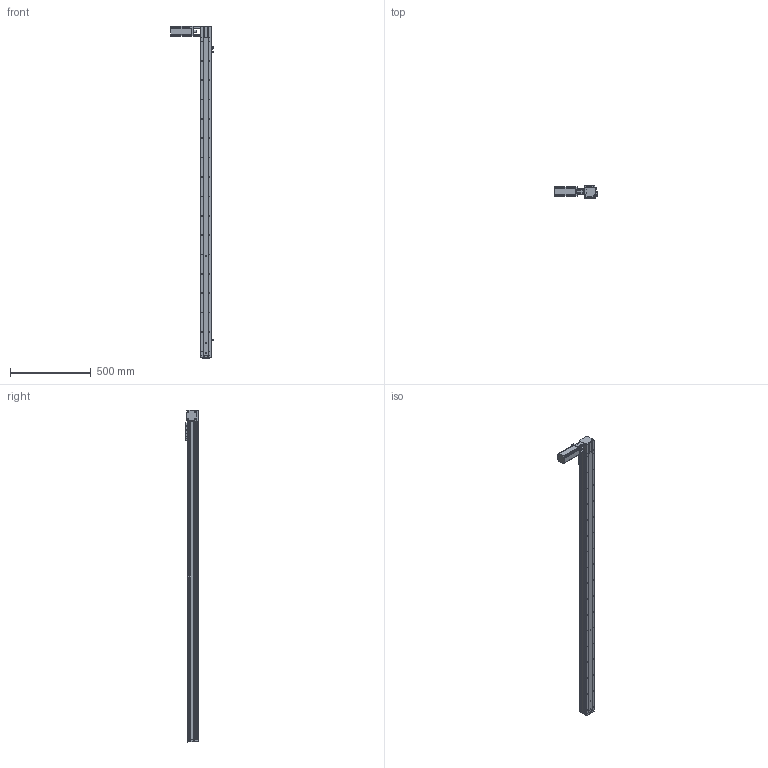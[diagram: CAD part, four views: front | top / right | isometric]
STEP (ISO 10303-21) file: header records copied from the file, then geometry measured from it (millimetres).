
FILE_DESCRIPTION (( 'STEP AP214' ), '1' );
FILE_NAME ('KSD68BS-S1800-MLT-CR.STEP', '2019-08-28T05:38:10', ( '微软用户' ), ( '微软中国' ), 'SwSTEP 2.0', 'SolidWorks 2014', '' );
FILE_SCHEMA (( 'AUTOMOTIVE_DESIGN' ));
Length unit declared in the file: millimetre
Products named in the file (13): U倰嫖萇EEㄜSX672; 台达ECMA－C20604AS伺服电机（400W); KSD68BS 1800行程底板全封闭; KSD68BS-S1800-MLT-CR; 100遵鎮湛假蚾啣1; KSD68BS 1800行程盖板全封闭; 68遵裔啣揤啣1; 68宽单导轨全封闭丝杆传动安装板1防护罩; KSD68BS 1800行程侧板全封闭; 68宽单导轨全封闭同步带端板; 68单导轨全封闭同步带电机座右; 68单导轨全封闭同步带安装板; 感应片68宽全封闭
Assembly tree (16 placements, depth 2):
  KSD68BS-S1800-MLT-CR
    KSD68BS 1800行程底板全封闭
    台达ECMA－C20604AS伺服电机（400W)
    U倰嫖萇EEㄜSX672  x3
    感应片68宽全封闭
    68单导轨全封闭同步带安装板
    68单导轨全封闭同步带电机座右
    68宽单导轨全封闭同步带端板
    KSD68BS 1800行程侧板全封闭  x2
    68宽单导轨全封闭丝杆传动安装板1防护罩
    68遵裔啣揤啣1  x2
    KSD68BS 1800行程盖板全封闭
    100遵鎮湛假蚾啣1
Bounding box: 266.4 x 77 x 2058.1 mm (x, y, z)
Volume: 3567740.2 mm3; surface area: 1439281.8 mm2
Topology: 17 solids, 17 shells, 1516 faces, 4384 edges, 2779 vertices
Faces by surface type: cylinder 716, plane 604, cone 196
Entity records: 48973 total; most frequent: CARTESIAN_POINT 8655, DIRECTION 7224, ORIENTED_EDGE 6956, EDGE_CURVE 3478, AXIS2_PLACEMENT_3D 2618, VERTEX_POINT 2277, LINE 1988, VECTOR 1988
